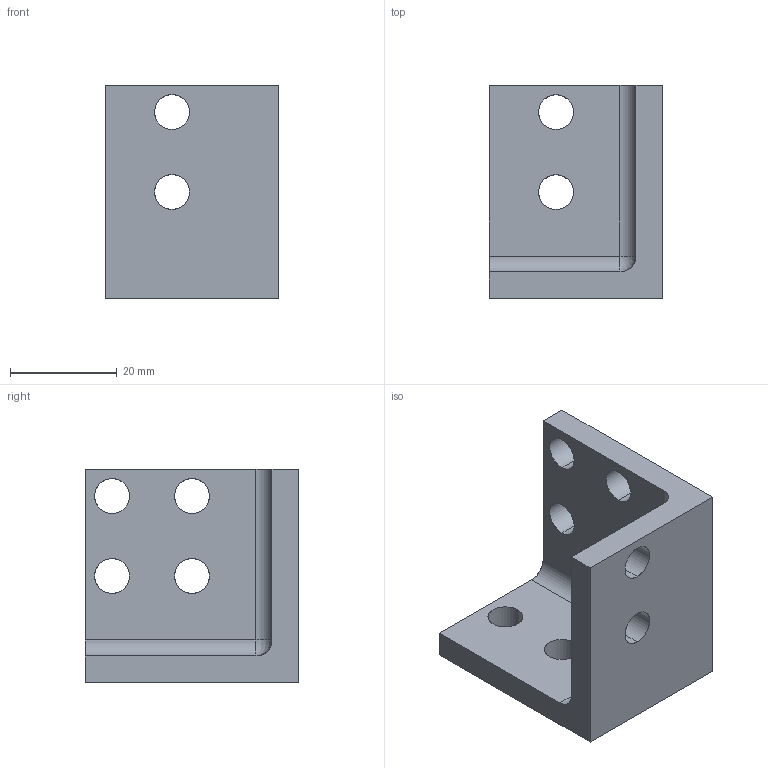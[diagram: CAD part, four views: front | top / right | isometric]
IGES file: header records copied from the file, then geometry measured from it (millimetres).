
Start section: SolidWorks IGES file using analytic representation for surfaces
Global section: file name: C:\Documents and Settings\CAD53\デスクトップ\IGES\N01912-103-1.IGS; native system: SolidWorks 2005 by SolidWorks Corporation; preprocessor: SolidWorks 2005 by SolidWorks Corporation; author: CAD53; date: 070530.090428; units: millimetre
Bounding box: 32.5 x 40 x 40 mm (x, y, z)
Surface area: 8564.9 mm2 (no closed solid volume)
Topology: 0 solids, 0 shells, 29 faces, 658 edges, 657 vertices
Faces by surface type: revolution 20, bspline 9
